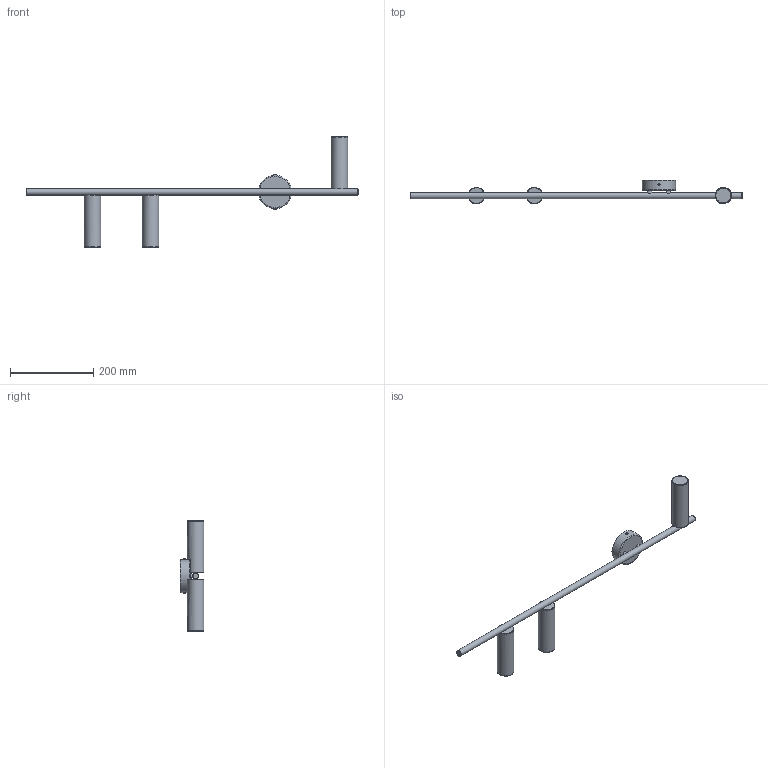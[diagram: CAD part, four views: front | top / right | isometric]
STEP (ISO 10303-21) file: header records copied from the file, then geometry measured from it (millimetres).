
FILE_DESCRIPTION ((), '1');
FILE_NAME ('C:\Users\MiCHAL\Desktop\ALDEX - Modele 3D 07.12.2022\1083Y40\1083Y40\1083Y40.stp', '2023-01-31T17:54:12', ('Unknown'), ('Unknown'), 'HarmonyWare STEP v2.1.4', 'HarmonyWare Translators', '');
FILE_SCHEMA (('CONFIG_CONTROL_DESIGN'));
Length unit declared in the file: centimetre
Assembly tree (12 placements, depth 2):
  (unnamed)
    (unnamed)
    (unnamed)
    (unnamed)
    (unnamed)
    (unnamed)
    (unnamed)
    (unnamed)
    (unnamed)
    (unnamed)
    (unnamed)
    (unnamed)
    (unnamed)
Bounding box: 800 x 57.5 x 267 mm (x, y, z)
Volume: 744480.8 mm3; surface area: 205479.8 mm2
Topology: 12 solids, 12 shells, 53 faces, 85 edges, 64 vertices
Faces by surface type: bspline 53
Entity records: 6315 total; most frequent: CARTESIAN_POINT 3905, ORIENTED_EDGE 140, PERSON 128, ORGANIZATION 128, PERSON_AND_ORGANIZATION 128, CALENDAR_DATE 89, COORDINATED_UNIVERSAL_TIME_OFFSET 89, LOCAL_TIME 89
